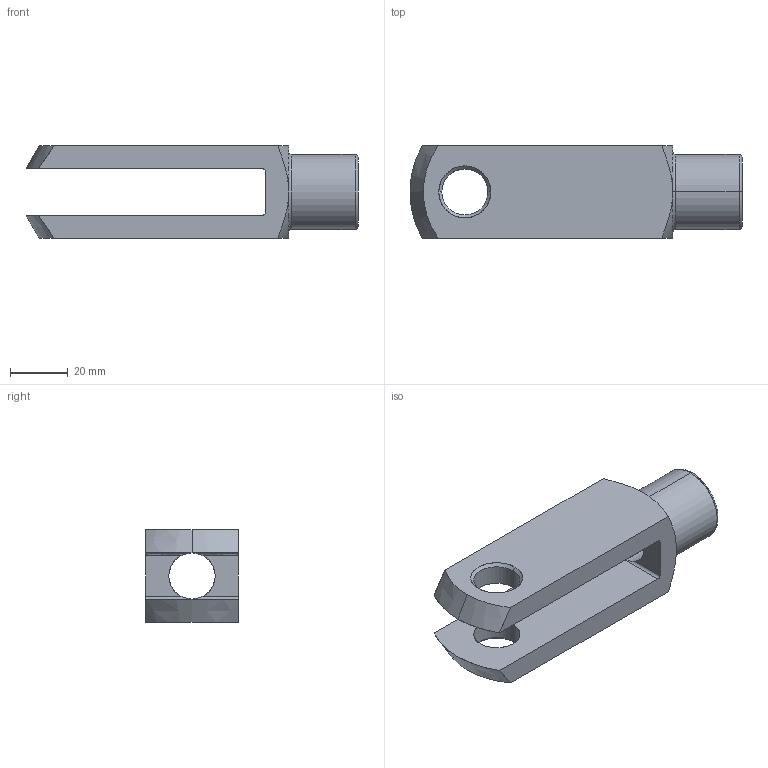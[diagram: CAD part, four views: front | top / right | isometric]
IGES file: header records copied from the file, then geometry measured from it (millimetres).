
Start section: SolidWorks IGES file using analytic representation for surfaces
Global section: file name: C:\Documents and Settings\IANO\My Documents\Wix and Auto CAD Work\CAD Models\Parametric Models\Wix Models\60000\65635_v2\65635_v2_IGES\65635.W0167.igs; native system: SolidWorks 2009; preprocessor: SolidWorks 2009; author: IANO; date: 140117.130755; units: millimetre
Bounding box: 115 x 32 x 32 mm (x, y, z)
Surface area: 18605.8 mm2 (no closed solid volume)
Topology: 0 solids, 0 shells, 39 faces, 684 edges, 684 vertices
Faces by surface type: revolution 25, bspline 14
